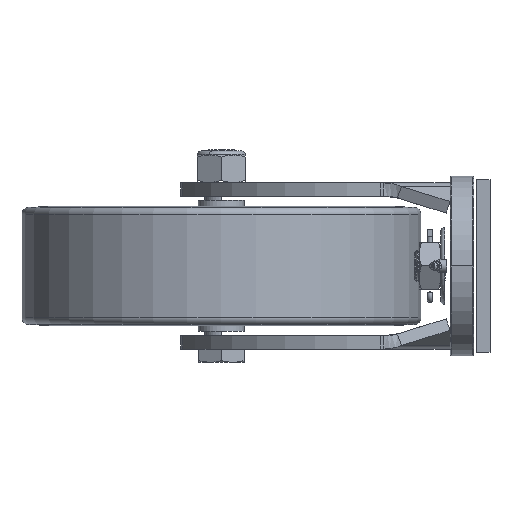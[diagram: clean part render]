
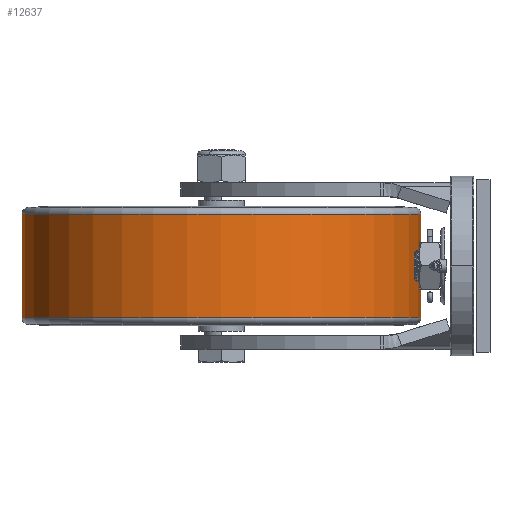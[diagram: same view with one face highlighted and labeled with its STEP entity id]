
A CAD part, front view. The second image highlights one B-rep face of the part: STEP entity #12637.
In plain terms, the highlighted cylindrical face has radius 150 mm (diameter 300 mm), a partial arc.
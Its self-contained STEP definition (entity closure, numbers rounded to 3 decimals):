
#7879=DIRECTION('',(0.,0.,1.));
#7880=VECTOR('',#7879,78.);
#7881=CARTESIAN_POINT('',(-357.5,80.,-39.));
#7882=LINE('',#7881,#7880);
#7883=DIRECTION('',(0.,0.,1.));
#7884=VECTOR('',#7883,78.);
#7885=CARTESIAN_POINT('',(-57.5,80.,-39.));
#7886=LINE('',#7885,#7884);
#7887=CARTESIAN_POINT('',(-207.5,80.,-39.));
#7888=DIRECTION('',(0.,0.,1.));
#7889=DIRECTION('',(-1.,0.,0.));
#7890=AXIS2_PLACEMENT_3D('',#7887,#7888,#7889);
#7902=CARTESIAN_POINT('',(-207.5,80.,39.));
#7903=DIRECTION('',(0.,0.,1.));
#7904=DIRECTION('',(-1.,0.,0.));
#7905=AXIS2_PLACEMENT_3D('',#7902,#7903,#7904);
#10047=CARTESIAN_POINT('',(-357.5,80.,-39.));
#10048=VERTEX_POINT('',#10047);
#10049=CARTESIAN_POINT('',(-357.5,80.,39.));
#10050=VERTEX_POINT('',#10049);
#10093=CARTESIAN_POINT('',(-57.5,80.,-39.));
#10094=VERTEX_POINT('',#10093);
#10095=CARTESIAN_POINT('',(-57.5,80.,39.));
#10096=VERTEX_POINT('',#10095);
#12625=CARTESIAN_POINT('',(-207.5,80.,49.5));
#12626=DIRECTION('',(0.,0.,-1.));
#12627=DIRECTION('',(1.,0.,0.));
#12628=AXIS2_PLACEMENT_3D('',#12625,#12626,#12627);
#12629=CYLINDRICAL_SURFACE('',#12628,150.);
#12630=ORIENTED_EDGE('',*,*,#11774,.T.);
#12632=ORIENTED_EDGE('',*,*,#12631,.T.);
#12633=ORIENTED_EDGE('',*,*,#11777,.F.);
#12634=ORIENTED_EDGE('',*,*,#12606,.F.);
#12635=EDGE_LOOP('',(#12630,#12632,#12633,#12634));
#12636=FACE_OUTER_BOUND('',#12635,.F.);
#12637=ADVANCED_FACE('',(#12636),#12629,.T.);
#7891=CIRCLE('',#7890,150.);
#7906=CIRCLE('',#7905,150.);
#11774=EDGE_CURVE('',#10048,#10050,#7882,.T.);
#11777=EDGE_CURVE('',#10094,#10096,#7886,.T.);
#12606=EDGE_CURVE('',#10048,#10094,#7891,.T.);
#12631=EDGE_CURVE('',#10050,#10096,#7906,.T.);
